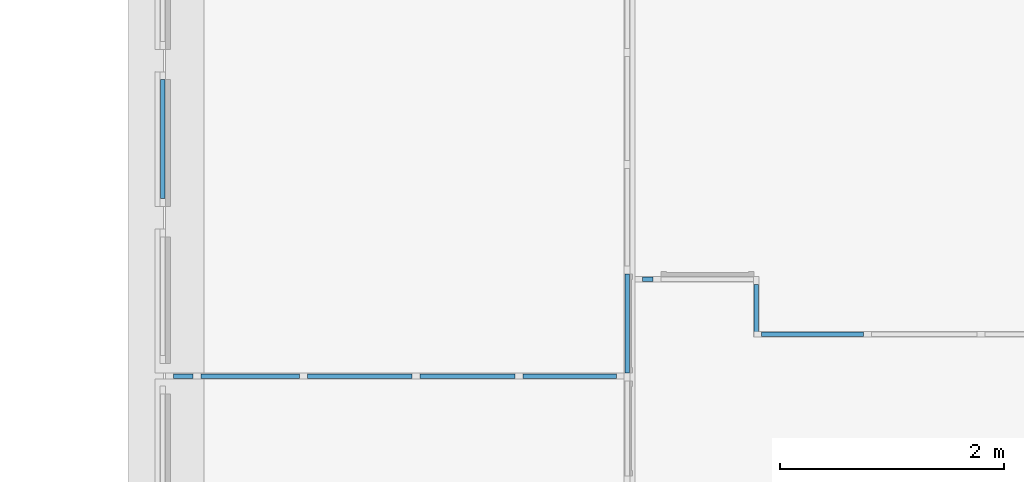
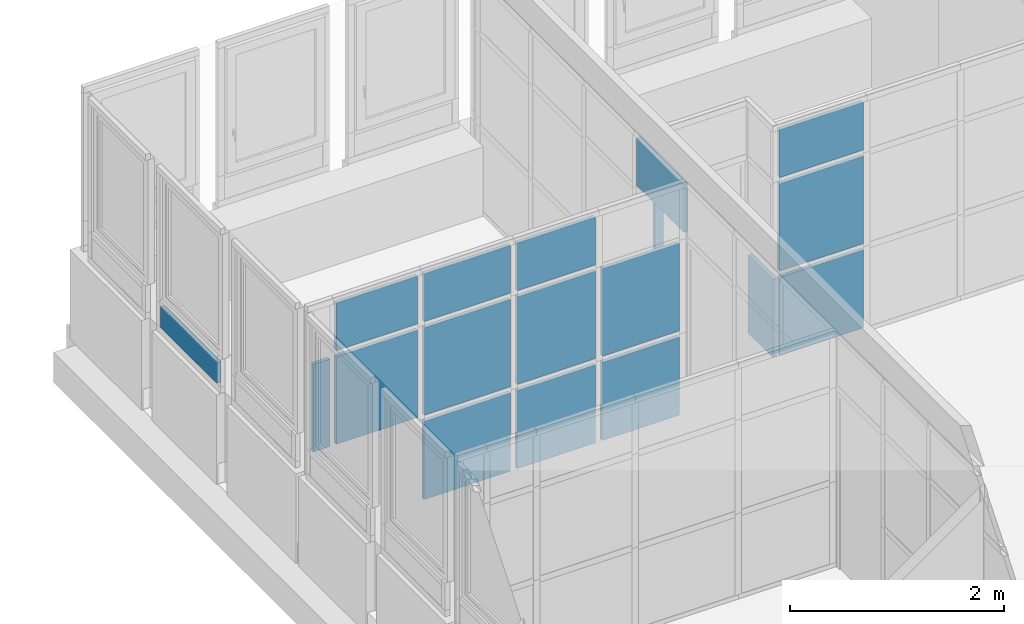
# One storey, part 31 of 97: 18 plates, 6 elements without a shape of their own.
"""IFC4 building model written with IfcOpenShell, lengths in metres."""

from ifc_helpers import new_model, entity, si_unit, converted_unit, derived_unit, direction, frame, origin, place, context, subcontext, project, spatial, indexed_curve, outline, extrude, shape, source, transform, mapped, material, layer, layer_set, type_object, type_shapes, element, aggregate, save


model = new_model("IFC4")

# Units and contexts
model_context = context("Model", 3, precision=1e-05, world=origin(), true_north=direction((6.12303176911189e-17, 1.0)))
body_context = subcontext(model_context, "Body", "Model", "MODEL_VIEW")
footprint_context = subcontext(model_context, "FootPrint", "Model", "MODEL_VIEW")
ifc_project = project(units=[si_unit("LENGTHUNIT", "METRE"), si_unit("AREAUNIT", "SQUARE_METRE"), si_unit("VOLUMEUNIT", "CUBIC_METRE"), converted_unit("PLANEANGLEUNIT", "DEGREE", entity("IfcRatioMeasure", 0.0174532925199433), si_unit("PLANEANGLEUNIT", "RADIAN"), dimensions=[0, 0, 0, 0, 0, 0, 0]), si_unit("MASSUNIT", "GRAM", prefix="KILO"), derived_unit("MASSDENSITYUNIT", [(si_unit("MASSUNIT", "GRAM", prefix="KILO"), 1), (si_unit("LENGTHUNIT", "METRE"), -3)]), derived_unit("MOMENTOFINERTIAUNIT", [(si_unit("LENGTHUNIT", "METRE"), 4)]), si_unit("TIMEUNIT", "SECOND"), si_unit("FREQUENCYUNIT", "HERTZ"), si_unit("THERMODYNAMICTEMPERATUREUNIT", "DEGREE_CELSIUS"), derived_unit("THERMALTRANSMITTANCEUNIT", [(si_unit("MASSUNIT", "GRAM", prefix="KILO"), 1), (si_unit("THERMODYNAMICTEMPERATUREUNIT", "KELVIN"), -1), (si_unit("TIMEUNIT", "SECOND"), -3)]), derived_unit("VOLUMETRICFLOWRATEUNIT", [(si_unit("LENGTHUNIT", "METRE"), 3), (si_unit("TIMEUNIT", "SECOND"), -1)]), si_unit("ELECTRICCURRENTUNIT", "AMPERE"), si_unit("ELECTRICVOLTAGEUNIT", "VOLT"), si_unit("POWERUNIT", "WATT"), si_unit("FORCEUNIT", "NEWTON", prefix="KILO"), si_unit("ILLUMINANCEUNIT", "LUX"), si_unit("LUMINOUSFLUXUNIT", "LUMEN"), si_unit("LUMINOUSINTENSITYUNIT", "CANDELA"), derived_unit("USERDEFINED", [(si_unit("MASSUNIT", "GRAM", prefix="KILO"), -1), (si_unit("LENGTHUNIT", "METRE"), -2), (si_unit("TIMEUNIT", "SECOND"), 3), (si_unit("LUMINOUSFLUXUNIT", "LUMEN"), 1)]), derived_unit("LINEARVELOCITYUNIT", [(si_unit("LENGTHUNIT", "METRE"), 1), (si_unit("TIMEUNIT", "SECOND"), -1)]), si_unit("PRESSUREUNIT", "PASCAL"), derived_unit("USERDEFINED", [(si_unit("LENGTHUNIT", "METRE"), -2), (si_unit("MASSUNIT", "GRAM", prefix="KILO"), 1), (si_unit("TIMEUNIT", "SECOND"), -2)]), derived_unit("LINEARFORCEUNIT", [(si_unit("MASSUNIT", "GRAM", prefix="KILO"), 1), (si_unit("LENGTHUNIT", "METRE"), 1), (si_unit("TIMEUNIT", "SECOND"), -2), (si_unit("LENGTHUNIT", "METRE"), -1)]), derived_unit("PLANARFORCEUNIT", [(si_unit("MASSUNIT", "GRAM", prefix="KILO"), 1), (si_unit("LENGTHUNIT", "METRE"), 1), (si_unit("TIMEUNIT", "SECOND"), -2), (si_unit("LENGTHUNIT", "METRE"), -2)])], contexts=[model_context])

# Site, building, storey
site_placement = place(None, origin())
site = spatial("IfcSite", under=ifc_project, at=site_placement, Name="Default", CompositionType="ELEMENT")
building_placement = place(site_placement, origin())
building = spatial("IfcBuilding", under=site, at=building_placement, Name="HOTEL CONSULAIRE BOULOGNE SUR MER", CompositionType="ELEMENT")
storey_placement = place(building_placement, frame((0.0, 0.0, 3.62152697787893)))
storey = spatial("IfcBuildingStorey", under=building, at=storey_placement, Name="Niveau 1", CompositionType="ELEMENT", Elevation=3.62152697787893)

# Curtain wall, plate
curtain_wall_type = type_object("IfcCurtainWallType", Name="Mur-rideau:Simple panneau", PredefinedType="NOTDEFINED")
curtain_wall_1_placement = place(storey_placement, frame((0.0, 0.0, -3.62152697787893)))
curtain_wall_1 = element("IfcCurtainWall", 1, at=curtain_wall_1_placement, inside=storey, type_object=curtain_wall_type, Name="Mur-rideau:Simple panneau", ObjectType="Mur-rideau:Simple panneau", PredefinedType="NOTDEFINED")
ifc_material = material(Name="Verre", Category="Verre")
ifc_layer_1 = layer(ifc_material, 0.04, Name="Verre", Category="Verre")
ifc_layer_set_1 = layer_set([ifc_layer_1], Name="Mur-rideau:Simple panneau")
plate_type_1 = type_object("IfcPlateType", Name="Panneau système:Vitré", PredefinedType="CURTAIN_PANEL", material=ifc_layer_set_1)
shared_shape_1 = source(origin(), body_context, "Body", "SweptSolid", [
    extrude(outline(indexed_curve([(-0.02, -0.530000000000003), (0.02, -0.530000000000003), (0.02, 0.530000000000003), (-0.02, 0.530000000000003), (-0.02, -0.530000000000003)], self_intersect=False)), frame((0.530000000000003, 0.02, 0.0), z_axis=(0.0, 0.0, 1.0), x_axis=(0.0, 1.0, 0.0)), (0.0, 0.0, 1.0), 0.243),
])
shared_shape_2 = source(frame((-0.530000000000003, 0.00500000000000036, 0.0)), footprint_context, "FootPrint", "Curve2D", [
    entity("IfcIndexedPolyCurve", entity("IfcCartesianPointList2D", [[0.691544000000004, 0.00347600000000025], [0.691544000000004, 0.0434760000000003], [-0.368456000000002, 0.0434760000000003], [-0.368456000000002, 0.00347600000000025], [0.691544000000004, 0.00347600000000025]]), None, False),
])
type_shapes(plate_type_1, [shared_shape_1, shared_shape_2])
plate_1_placement = place(curtain_wall_1_placement, frame((-13.7920998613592, -12.6414499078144, 4.48313951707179), z_axis=(0.0, 0.0, 1.0), x_axis=(0.0, 1.0, 0.0)))
plate_1 = element("IfcPlate", 2, at=plate_1_placement, type_object=plate_type_1, material=ifc_layer_set_1, Name="Panneau système:Vitré", ObjectType="Panneau système:Vitré", PredefinedType="CURTAIN_PANEL", shapes=[
    shape(body_context, "Body", "MappedRepresentation", [mapped(shared_shape_1, transform((0.0, 0.0, 0.0), scale=1.0))]),
    shape(body_context, "Body", "MappedRepresentation", [mapped(shared_shape_2, transform((0.0, 0.0, 0.0), scale=1.0))]),
])
aggregate(curtain_wall_1, [plate_1])

curtain_wall_2_placement = place(storey_placement, frame((0.0, 0.0, -3.62152697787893)))
curtain_wall_2 = element("IfcCurtainWall", 3, at=curtain_wall_2_placement, inside=storey, type_object=curtain_wall_type, Name="Mur-rideau:Simple panneau", ObjectType="Mur-rideau:Simple panneau", PredefinedType="NOTDEFINED")
plate_type_2 = type_object("IfcPlateType", Name="Panneau système:Vitré", PredefinedType="CURTAIN_PANEL", material=ifc_layer_set_1)
shared_shape_3 = source(origin(), body_context, "Body", "SweptSolid", [
    extrude(outline(indexed_curve([(-0.02, -0.423499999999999), (0.02, -0.423499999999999), (0.02, 0.423499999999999), (-0.02, 0.423499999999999), (-0.02, -0.423499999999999)], self_intersect=False)), frame((0.423499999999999, 0.02, 0.0), z_axis=(0.0, 0.0, 1.0), x_axis=(0.0, 1.0, 0.0)), (0.0, 0.0, 1.0), 0.546),
])
shared_shape_4 = source(frame((-0.423499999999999, 0.00499999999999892, 0.0)), footprint_context, "FootPrint", "Curve2D", [
    entity("IfcIndexedPolyCurve", entity("IfcCartesianPointList2D", [[0.552582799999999, 0.00347599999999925], [0.552582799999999, 0.0434759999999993], [-0.294417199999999, 0.0434759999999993], [-0.294417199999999, 0.00347599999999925], [0.552582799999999, 0.00347599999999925]]), None, False),
])
type_shapes(plate_type_2, [shared_shape_3, shared_shape_4])
plate_2_placement = place(curtain_wall_2_placement, frame((-11.5200998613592, -14.2424499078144, 5.70248743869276)))
plate_2 = element("IfcPlate", 4, at=plate_2_placement, type_object=plate_type_2, material=ifc_layer_set_1, Name="Panneau système:Vitré", ObjectType="Panneau système:Vitré", PredefinedType="CURTAIN_PANEL", shapes=[
    shape(body_context, "Body", "MappedRepresentation", [mapped(shared_shape_3, transform((0.0, 0.0, 0.0), scale=1.0))]),
    shape(body_context, "Body", "MappedRepresentation", [mapped(shared_shape_4, transform((0.0, 0.0, 0.0), scale=1.0))]),
])

curtain_wall_3_placement = place(storey_placement, frame((0.0, 0.0, -3.62152697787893)))
curtain_wall_3 = element("IfcCurtainWall", 5, at=curtain_wall_3_placement, inside=storey, type_object=curtain_wall_type, Name="Mur-rideau:Simple panneau", ObjectType="Mur-rideau:Simple panneau", PredefinedType="NOTDEFINED")
plate_type_3 = type_object("IfcPlateType", Name="Panneau système:Vitré", PredefinedType="CURTAIN_PANEL", material=ifc_layer_set_1)
shared_shape_5 = source(origin(), body_context, "Body", "SweptSolid", [
    extrude(outline(indexed_curve([(-0.02, -0.441999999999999), (0.02, -0.441999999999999), (0.02, 0.441999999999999), (-0.02, 0.441999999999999), (-0.02, -0.441999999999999)], self_intersect=False)), frame((0.441999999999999, 0.02, 0.0), z_axis=(0.0, 0.0, 1.0), x_axis=(0.0, 1.0, 0.0)), (0.0, 0.0, 1.0), 0.546),
])
shared_shape_6 = source(frame((-0.441999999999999, 0.00500000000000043, 0.0)), footprint_context, "FootPrint", "Curve2D", [
    entity("IfcIndexedPolyCurve", entity("IfcCartesianPointList2D", [[0.576721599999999, 0.0034760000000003], [0.576721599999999, 0.0434760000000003], [-0.307278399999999, 0.0434760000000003], [-0.307278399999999, 0.0034760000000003], [0.576721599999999, 0.0034760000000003]]), None, False),
])
type_shapes(plate_type_3, [shared_shape_5, shared_shape_6])
plate_3_placement = place(curtain_wall_3_placement, frame((-9.65462464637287, -14.1962596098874, 5.70248743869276), z_axis=(0.0, 0.0, 1.0), x_axis=(0.0, 1.0, 0.0)))
plate_3 = element("IfcPlate", 6, at=plate_3_placement, type_object=plate_type_3, material=ifc_layer_set_1, Name="Panneau système:Vitré", ObjectType="Panneau système:Vitré", PredefinedType="CURTAIN_PANEL", shapes=[
    shape(body_context, "Body", "MappedRepresentation", [mapped(shared_shape_5, transform((0.0, 0.0, 0.0), scale=1.0))]),
    shape(body_context, "Body", "MappedRepresentation", [mapped(shared_shape_6, transform((0.0, 0.0, 0.0), scale=1.0))]),
])
aggregate(curtain_wall_3, [plate_3])

# Plate
ifc_layer_2 = layer(ifc_material, 0.04, Name="Verre", Category="Verre")
ifc_layer_set_2 = layer_set([ifc_layer_2], Name="Mur-rideau:Simple panneau")
plate_type_4 = type_object("IfcPlateType", Name="Panneau système:Plein", PredefinedType="CURTAIN_PANEL", material=ifc_layer_set_2)
shared_shape_7 = source(origin(), body_context, "Body", "SweptSolid", [
    extrude(outline(indexed_curve([(-0.02, -0.466499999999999), (0.02, -0.466499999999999), (0.02, 0.466499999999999), (-0.02, 0.466499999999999), (-0.02, -0.466499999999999)], self_intersect=False)), frame((0.466499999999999, 0.02, 0.0), z_axis=(0.0, 0.0, 1.0), x_axis=(0.0, 1.0, 0.0)), (0.0, 0.0, 1.0), 0.892),
])
shared_shape_8 = source(frame((-0.466499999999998, 0.00500000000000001, 0.0)), footprint_context, "FootPrint", "Curve2D", [
    entity("IfcIndexedPolyCurve", entity("IfcCartesianPointList2D", [[0.608689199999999, 0.003476], [0.608689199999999, 0.043476], [-0.324310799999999, 0.043476], [-0.324310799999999, 0.003476], [0.608689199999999, 0.003476]]), None, False),
])
type_shapes(plate_type_4, [shared_shape_7, shared_shape_8])
plate_4_placement = place(curtain_wall_2_placement, frame((-12.5230998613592, -14.2424499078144, 3.67152697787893)))
plate_4 = element("IfcPlate", 7, at=plate_4_placement, type_object=plate_type_4, material=ifc_layer_set_2, Name="Panneau système:Plein", ObjectType="Panneau système:Plein", PredefinedType="CURTAIN_PANEL", shapes=[
    shape(body_context, "Body", "MappedRepresentation", [mapped(shared_shape_7, transform((0.0, 0.0, 0.0), scale=1.0))]),
    shape(body_context, "Body", "MappedRepresentation", [mapped(shared_shape_8, transform((0.0, 0.0, 0.0), scale=1.0))]),
])

plate_type_5 = type_object("IfcPlateType", Name="Panneau système:Plein", PredefinedType="CURTAIN_PANEL", material=ifc_layer_set_2)
shared_shape_9 = source(origin(), body_context, "Body", "SweptSolid", [
    extrude(outline(indexed_curve([(-0.02, -0.423499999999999), (0.02, -0.423499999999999), (0.02, 0.423499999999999), (-0.02, 0.423499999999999), (-0.02, -0.423499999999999)], self_intersect=False)), frame((0.423499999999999, 0.02, 0.0), z_axis=(0.0, 0.0, 1.0), x_axis=(0.0, 1.0, 0.0)), (0.0, 0.0, 1.0), 0.892),
])
shared_shape_10 = source(frame((-0.423499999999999, 0.00499999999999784, 0.0)), footprint_context, "FootPrint", "Curve2D", [
    entity("IfcIndexedPolyCurve", entity("IfcCartesianPointList2D", [[0.552582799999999, 0.0034759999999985], [0.552582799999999, 0.0434759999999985], [-0.294417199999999, 0.0434759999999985], [-0.294417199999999, 0.0034759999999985], [0.552582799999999, 0.0034759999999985]]), None, False),
])
type_shapes(plate_type_5, [shared_shape_9, shared_shape_10])
plate_5_placement = place(curtain_wall_2_placement, frame((-11.5200998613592, -14.2424499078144, 3.67152697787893)))
plate_5 = element("IfcPlate", 8, at=plate_5_placement, type_object=plate_type_5, material=ifc_layer_set_2, Name="Panneau système:Plein", ObjectType="Panneau système:Plein", PredefinedType="CURTAIN_PANEL", shapes=[
    shape(body_context, "Body", "MappedRepresentation", [mapped(shared_shape_9, transform((0.0, 0.0, 0.0), scale=1.0))]),
    shape(body_context, "Body", "MappedRepresentation", [mapped(shared_shape_10, transform((0.0, 0.0, 0.0), scale=1.0))]),
])

plate_type_6 = type_object("IfcPlateType", Name="Panneau système:Plein", PredefinedType="CURTAIN_PANEL", material=ifc_layer_set_2)
shared_shape_11 = source(origin(), body_context, "Body", "SweptSolid", [
    extrude(outline(indexed_curve([(-0.02, -0.416737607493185), (0.02, -0.416737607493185), (0.02, 0.416737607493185), (-0.02, 0.416737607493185), (-0.02, -0.416737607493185)], self_intersect=False)), frame((0.416737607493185, 0.02, 0.0), z_axis=(0.0, 0.0, 1.0), x_axis=(0.0, 1.0, 0.0)), (0.0, 0.0, 1.0), 0.892),
])
shared_shape_12 = source(frame((-0.416737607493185, 0.00500000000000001, 0.0)), footprint_context, "FootPrint", "Curve2D", [
    entity("IfcIndexedPolyCurve", entity("IfcCartesianPointList2D", [[0.543759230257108, 0.003476], [0.543759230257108, 0.043476], [-0.289715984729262, 0.043476], [-0.289715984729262, 0.003476], [0.543759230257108, 0.003476]]), None, False),
])
type_shapes(plate_type_6, [shared_shape_11, shared_shape_12])
plate_6_placement = place(curtain_wall_2_placement, frame((-10.6030998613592, -14.2424499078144, 3.67152697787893)))
plate_6 = element("IfcPlate", 9, at=plate_6_placement, type_object=plate_type_6, material=ifc_layer_set_2, Name="Panneau système:Plein", ObjectType="Panneau système:Plein", PredefinedType="CURTAIN_PANEL", shapes=[
    shape(body_context, "Body", "MappedRepresentation", [mapped(shared_shape_11, transform((0.0, 0.0, 0.0), scale=1.0))]),
    shape(body_context, "Body", "MappedRepresentation", [mapped(shared_shape_12, transform((0.0, 0.0, 0.0), scale=1.0))]),
])

plate_type_7 = type_object("IfcPlateType", Name="Panneau système:Vitré", PredefinedType="CURTAIN_PANEL", material=ifc_layer_set_1)
shared_shape_13 = source(origin(), body_context, "Body", "SweptSolid", [
    extrude(outline(indexed_curve([(-0.02, -0.0885000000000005), (0.02, -0.0885000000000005), (0.02, 0.0885000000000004), (-0.02, 0.0885000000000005), (-0.02, -0.0885000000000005)], self_intersect=False)), frame((0.0885000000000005, 0.02, 0.0), z_axis=(0.0, 0.0, 1.0), x_axis=(0.0, 1.0, 0.0)), (0.0, 0.0, 1.0), 0.998960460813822),
])
shared_shape_14 = source(frame((-0.0885000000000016, 0.00500000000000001, 0.0)), footprint_context, "FootPrint", "Curve2D", [
    entity("IfcIndexedPolyCurve", entity("IfcCartesianPointList2D", [[0.1154748, 0.003476], [0.1154748, 0.043476], [-0.0615252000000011, 0.043476], [-0.0615252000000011, 0.003476], [0.1154748, 0.003476]]), None, False),
])
type_shapes(plate_type_7, [shared_shape_13, shared_shape_14])
plate_7_placement = place(curtain_wall_2_placement, frame((-13.7181025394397, -14.2424499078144, 4.63352697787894)))
plate_7 = element("IfcPlate", 10, at=plate_7_placement, type_object=plate_type_7, material=ifc_layer_set_1, Name="Panneau système:Vitré", ObjectType="Panneau système:Vitré", PredefinedType="CURTAIN_PANEL", shapes=[
    shape(body_context, "Body", "MappedRepresentation", [mapped(shared_shape_13, transform((0.0, 0.0, 0.0), scale=1.0))]),
    shape(body_context, "Body", "MappedRepresentation", [mapped(shared_shape_14, transform((0.0, 0.0, 0.0), scale=1.0))]),
])

plate_type_8 = type_object("IfcPlateType", Name="Panneau système:Vitré", PredefinedType="CURTAIN_PANEL", material=ifc_layer_set_1)
shared_shape_15 = source(origin(), body_context, "Body", "SweptSolid", [
    extrude(outline(indexed_curve([(-0.02, -0.439001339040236), (0.02, -0.439001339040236), (0.02, 0.439001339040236), (-0.02, 0.439001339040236), (-0.02, -0.439001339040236)], self_intersect=False)), frame((0.439001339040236, 0.02, 0.0), z_axis=(0.0, 0.0, 1.0), x_axis=(0.0, 1.0, 0.0)), (0.0, 0.0, 1.0), 0.998960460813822),
])
shared_shape_16 = source(frame((-0.439001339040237, 0.00500000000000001, 0.0)), footprint_context, "FootPrint", "Curve2D", [
    entity("IfcIndexedPolyCurve", entity("IfcCartesianPointList2D", [[0.572808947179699, 0.003476], [0.572808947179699, 0.043476], [-0.305193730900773, 0.043476], [-0.305193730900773, 0.003476], [0.572808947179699, 0.003476]]), None, False),
])
type_shapes(plate_type_8, [shared_shape_15, shared_shape_16])
plate_8_placement = place(curtain_wall_2_placement, frame((-13.4711025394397, -14.2424499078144, 4.63352697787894)))
plate_8 = element("IfcPlate", 11, at=plate_8_placement, type_object=plate_type_8, material=ifc_layer_set_1, Name="Panneau système:Vitré", ObjectType="Panneau système:Vitré", PredefinedType="CURTAIN_PANEL", shapes=[
    shape(body_context, "Body", "MappedRepresentation", [mapped(shared_shape_15, transform((0.0, 0.0, 0.0), scale=1.0))]),
    shape(body_context, "Body", "MappedRepresentation", [mapped(shared_shape_16, transform((0.0, 0.0, 0.0), scale=1.0))]),
])

plate_type_9 = type_object("IfcPlateType", Name="Panneau système:Vitré", PredefinedType="CURTAIN_PANEL", material=ifc_layer_set_1)
shared_shape_17 = source(origin(), body_context, "Body", "SweptSolid", [
    extrude(outline(indexed_curve([(-0.02, -0.466499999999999), (0.02, -0.466499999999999), (0.02, 0.466499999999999), (-0.02, 0.466499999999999), (-0.02, -0.466499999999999)], self_intersect=False)), frame((0.466499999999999, 0.02, 0.0), z_axis=(0.0, 0.0, 1.0), x_axis=(0.0, 1.0, 0.0)), (0.0, 0.0, 1.0), 0.998960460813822),
])
shared_shape_18 = source(frame((-0.466499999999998, 0.00500000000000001, 0.0)), footprint_context, "FootPrint", "Curve2D", [
    entity("IfcIndexedPolyCurve", entity("IfcCartesianPointList2D", [[0.608689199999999, 0.003476], [0.608689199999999, 0.043476], [-0.324310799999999, 0.043476], [-0.324310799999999, 0.003476], [0.608689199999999, 0.003476]]), None, False),
])
type_shapes(plate_type_9, [shared_shape_17, shared_shape_18])
plate_9_placement = place(curtain_wall_2_placement, frame((-12.5230998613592, -14.2424499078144, 4.63352697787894)))
plate_9 = element("IfcPlate", 12, at=plate_9_placement, type_object=plate_type_9, material=ifc_layer_set_1, Name="Panneau système:Vitré", ObjectType="Panneau système:Vitré", PredefinedType="CURTAIN_PANEL", shapes=[
    shape(body_context, "Body", "MappedRepresentation", [mapped(shared_shape_17, transform((0.0, 0.0, 0.0), scale=1.0))]),
    shape(body_context, "Body", "MappedRepresentation", [mapped(shared_shape_18, transform((0.0, 0.0, 0.0), scale=1.0))]),
])

plate_type_10 = type_object("IfcPlateType", Name="Panneau système:Vitré", PredefinedType="CURTAIN_PANEL", material=ifc_layer_set_1)
shared_shape_19 = source(origin(), body_context, "Body", "SweptSolid", [
    extrude(outline(indexed_curve([(-0.02, -0.423499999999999), (0.02, -0.423499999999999), (0.02, 0.423499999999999), (-0.02, 0.423499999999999), (-0.02, -0.423499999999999)], self_intersect=False)), frame((0.423499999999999, 0.02, 0.0), z_axis=(0.0, 0.0, 1.0), x_axis=(0.0, 1.0, 0.0)), (0.0, 0.0, 1.0), 0.998960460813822),
])
shared_shape_20 = source(frame((-0.423499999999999, 0.00499999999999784, 0.0)), footprint_context, "FootPrint", "Curve2D", [
    entity("IfcIndexedPolyCurve", entity("IfcCartesianPointList2D", [[0.552582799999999, 0.0034759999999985], [0.552582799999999, 0.0434759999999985], [-0.294417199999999, 0.0434759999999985], [-0.294417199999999, 0.0034759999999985], [0.552582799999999, 0.0034759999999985]]), None, False),
])
type_shapes(plate_type_10, [shared_shape_19, shared_shape_20])
plate_10_placement = place(curtain_wall_2_placement, frame((-11.5200998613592, -14.2424499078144, 4.63352697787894)))
plate_10 = element("IfcPlate", 13, at=plate_10_placement, type_object=plate_type_10, material=ifc_layer_set_1, Name="Panneau système:Vitré", ObjectType="Panneau système:Vitré", PredefinedType="CURTAIN_PANEL", shapes=[
    shape(body_context, "Body", "MappedRepresentation", [mapped(shared_shape_19, transform((0.0, 0.0, 0.0), scale=1.0))]),
    shape(body_context, "Body", "MappedRepresentation", [mapped(shared_shape_20, transform((0.0, 0.0, 0.0), scale=1.0))]),
])

plate_type_11 = type_object("IfcPlateType", Name="Panneau système:Vitré", PredefinedType="CURTAIN_PANEL", material=ifc_layer_set_1)
shared_shape_21 = source(origin(), body_context, "Body", "SweptSolid", [
    extrude(outline(indexed_curve([(-0.02, -0.416737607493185), (0.02, -0.416737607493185), (0.02, 0.416737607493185), (-0.02, 0.416737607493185), (-0.02, -0.416737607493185)], self_intersect=False)), frame((0.416737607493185, 0.02, 0.0), z_axis=(0.0, 0.0, 1.0), x_axis=(0.0, 1.0, 0.0)), (0.0, 0.0, 1.0), 0.998960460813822),
])
shared_shape_22 = source(frame((-0.416737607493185, 0.00500000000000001, 0.0)), footprint_context, "FootPrint", "Curve2D", [
    entity("IfcIndexedPolyCurve", entity("IfcCartesianPointList2D", [[0.543759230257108, 0.003476], [0.543759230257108, 0.043476], [-0.289715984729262, 0.043476], [-0.289715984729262, 0.003476], [0.543759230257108, 0.003476]]), None, False),
])
type_shapes(plate_type_11, [shared_shape_21, shared_shape_22])
plate_11_placement = place(curtain_wall_2_placement, frame((-10.6030998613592, -14.2424499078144, 4.63352697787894)))
plate_11 = element("IfcPlate", 14, at=plate_11_placement, type_object=plate_type_11, material=ifc_layer_set_1, Name="Panneau système:Vitré", ObjectType="Panneau système:Vitré", PredefinedType="CURTAIN_PANEL", shapes=[
    shape(body_context, "Body", "MappedRepresentation", [mapped(shared_shape_21, transform((0.0, 0.0, 0.0), scale=1.0))]),
    shape(body_context, "Body", "MappedRepresentation", [mapped(shared_shape_22, transform((0.0, 0.0, 0.0), scale=1.0))]),
])

plate_type_12 = type_object("IfcPlateType", Name="Panneau système:Vitré", PredefinedType="CURTAIN_PANEL", material=ifc_layer_set_1)
shared_shape_23 = source(origin(), body_context, "Body", "SweptSolid", [
    extrude(outline(indexed_curve([(-0.02, -0.439001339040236), (0.02, -0.439001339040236), (0.02, 0.439001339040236), (-0.02, 0.439001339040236), (-0.02, -0.439001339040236)], self_intersect=False)), frame((0.439001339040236, 0.02, 0.0), z_axis=(0.0, 0.0, 1.0), x_axis=(0.0, 1.0, 0.0)), (0.0, 0.0, 1.0), 0.546),
])
shared_shape_24 = source(frame((-0.439001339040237, 0.00500000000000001, 0.0)), footprint_context, "FootPrint", "Curve2D", [
    entity("IfcIndexedPolyCurve", entity("IfcCartesianPointList2D", [[0.572808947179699, 0.003476], [0.572808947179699, 0.043476], [-0.305193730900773, 0.043476], [-0.305193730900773, 0.003476], [0.572808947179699, 0.003476]]), None, False),
])
type_shapes(plate_type_12, [shared_shape_23, shared_shape_24])
plate_12_placement = place(curtain_wall_2_placement, frame((-13.4711025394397, -14.2424499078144, 5.70248743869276)))
plate_12 = element("IfcPlate", 15, at=plate_12_placement, type_object=plate_type_12, material=ifc_layer_set_1, Name="Panneau système:Vitré", ObjectType="Panneau système:Vitré", PredefinedType="CURTAIN_PANEL", shapes=[
    shape(body_context, "Body", "MappedRepresentation", [mapped(shared_shape_23, transform((0.0, 0.0, 0.0), scale=1.0))]),
    shape(body_context, "Body", "MappedRepresentation", [mapped(shared_shape_24, transform((0.0, 0.0, 0.0), scale=1.0))]),
])

plate_type_13 = type_object("IfcPlateType", Name="Panneau système:Vitré", PredefinedType="CURTAIN_PANEL", material=ifc_layer_set_1)
shared_shape_25 = source(origin(), body_context, "Body", "SweptSolid", [
    extrude(outline(indexed_curve([(-0.02, -0.466499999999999), (0.02, -0.466499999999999), (0.02, 0.466499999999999), (-0.02, 0.466499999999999), (-0.02, -0.466499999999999)], self_intersect=False)), frame((0.466499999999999, 0.02, 0.0), z_axis=(0.0, 0.0, 1.0), x_axis=(0.0, 1.0, 0.0)), (0.0, 0.0, 1.0), 0.546),
])
shared_shape_26 = source(frame((-0.466499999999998, 0.00500000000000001, 0.0)), footprint_context, "FootPrint", "Curve2D", [
    entity("IfcIndexedPolyCurve", entity("IfcCartesianPointList2D", [[0.608689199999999, 0.003476], [0.608689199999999, 0.043476], [-0.324310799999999, 0.043476], [-0.324310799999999, 0.003476], [0.608689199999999, 0.003476]]), None, False),
])
type_shapes(plate_type_13, [shared_shape_25, shared_shape_26])
plate_13_placement = place(curtain_wall_2_placement, frame((-12.5230998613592, -14.2424499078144, 5.70248743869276)))
plate_13 = element("IfcPlate", 16, at=plate_13_placement, type_object=plate_type_13, material=ifc_layer_set_1, Name="Panneau système:Vitré", ObjectType="Panneau système:Vitré", PredefinedType="CURTAIN_PANEL", shapes=[
    shape(body_context, "Body", "MappedRepresentation", [mapped(shared_shape_25, transform((0.0, 0.0, 0.0), scale=1.0))]),
    shape(body_context, "Body", "MappedRepresentation", [mapped(shared_shape_26, transform((0.0, 0.0, 0.0), scale=1.0))]),
])

aggregate(curtain_wall_2, [plate_4, plate_5, plate_6, plate_7, plate_8, plate_9, plate_10, plate_11, plate_12, plate_13, plate_2])

# Curtain wall, plate
curtain_wall_4_placement = place(storey_placement, frame((0.0, 0.0, -3.62152697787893)))
curtain_wall_4 = element("IfcCurtainWall", 17, at=curtain_wall_4_placement, inside=storey, type_object=curtain_wall_type, Name="Mur-rideau:Simple panneau", ObjectType="Mur-rideau:Simple panneau", PredefinedType="NOTDEFINED")
plate_type_14 = type_object("IfcPlateType", Name="Panneau système:Vitré", PredefinedType="CURTAIN_PANEL", material=ifc_layer_set_1)
shared_shape_27 = source(origin(), body_context, "Body", "SweptSolid", [
    extrude(outline(indexed_curve([(-0.02, -0.0454999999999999), (0.02, -0.0454999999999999), (0.02, 0.0454999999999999), (-0.02, 0.0454999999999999), (-0.02, -0.0454999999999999)], self_intersect=False)), frame((0.0454999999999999, 0.02, 0.0), z_axis=(0.0, 0.0, 1.0), x_axis=(0.0, 1.0, 0.0)), (0.0, 0.0, 1.0), 0.998960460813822),
])
shared_shape_28 = source(frame((-0.0454999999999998, 0.00499999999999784, 0.0)), footprint_context, "FootPrint", "Curve2D", [
    entity("IfcIndexedPolyCurve", entity("IfcCartesianPointList2D", [[0.0593684, 0.0034759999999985], [0.0593684, 0.0434759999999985], [-0.0316315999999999, 0.0434759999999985], [-0.0316315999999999, 0.0034759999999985], [0.0593684, 0.0034759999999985]]), None, False),
])
type_shapes(plate_type_14, [shared_shape_27, shared_shape_28])
plate_14_placement = place(curtain_wall_4_placement, frame((-9.44362464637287, -13.3395509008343, 4.63352697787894), z_axis=(0.0, 0.0, 1.0), x_axis=(-1.0, 0.0, 0.0)))
plate_14 = element("IfcPlate", 18, at=plate_14_placement, type_object=plate_type_14, material=ifc_layer_set_1, Name="Panneau système:Vitré", ObjectType="Panneau système:Vitré", PredefinedType="CURTAIN_PANEL", shapes=[
    shape(body_context, "Body", "MappedRepresentation", [mapped(shared_shape_27, transform((0.0, 0.0, 0.0), scale=1.0))]),
    shape(body_context, "Body", "MappedRepresentation", [mapped(shared_shape_28, transform((0.0, 0.0, 0.0), scale=1.0))]),
])
aggregate(curtain_wall_4, [plate_14])

# Curtain wall, plates
curtain_wall_5_placement = place(storey_placement, frame((0.0, 0.0, -3.62152697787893)))
curtain_wall_5 = element("IfcCurtainWall", 19, at=curtain_wall_5_placement, inside=storey, type_object=curtain_wall_type, Name="Mur-rideau:Simple panneau", ObjectType="Mur-rideau:Simple panneau", PredefinedType="NOTDEFINED")
plate_type_15 = type_object("IfcPlateType", Name="Panneau système:Plein", PredefinedType="CURTAIN_PANEL", material=ifc_layer_set_2)
shared_shape_29 = source(origin(), body_context, "Body", "SweptSolid", [
    extrude(outline(indexed_curve([(-0.0199999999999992, -0.453199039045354), (0.0200000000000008, -0.453199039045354), (0.0199999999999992, 0.453199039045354), (-0.0200000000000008, 0.453199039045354), (-0.0199999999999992, -0.453199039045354)], self_intersect=False)), frame((0.453199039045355, 0.02, 0.0), z_axis=(0.0, 0.0, 1.0), x_axis=(0.0, 1.0, 0.0)), (0.0, 0.0, 1.0), 0.892),
])
shared_shape_30 = source(frame((-0.453199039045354, 0.00500000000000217, 0.0)), footprint_context, "FootPrint", "Curve2D", [
    entity("IfcIndexedPolyCurve", entity("IfcCartesianPointList2D", [[0.591334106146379, 0.00347600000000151], [0.591334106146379, 0.0434760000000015], [-0.315063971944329, 0.0434760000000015], [-0.315063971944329, 0.00347600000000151], [0.591334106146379, 0.00347600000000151]]), None, False),
])
type_shapes(plate_type_15, [shared_shape_29, shared_shape_30])
plate_15_placement = place(curtain_wall_5_placement, frame((-7.56756933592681, -13.8309141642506, 3.67152697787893), z_axis=(0.0, 0.0, 1.0), x_axis=(-1.0, 0.0, 0.0)))
plate_15 = element("IfcPlate", 20, at=plate_15_placement, type_object=plate_type_15, material=ifc_layer_set_2, Name="Panneau système:Plein", ObjectType="Panneau système:Plein", PredefinedType="CURTAIN_PANEL", shapes=[
    shape(body_context, "Body", "MappedRepresentation", [mapped(shared_shape_29, transform((0.0, 0.0, 0.0), scale=1.0))]),
    shape(body_context, "Body", "MappedRepresentation", [mapped(shared_shape_30, transform((0.0, 0.0, 0.0), scale=1.0))]),
])
plate_type_16 = type_object("IfcPlateType", Name="Panneau système:Vitré", PredefinedType="CURTAIN_PANEL", material=ifc_layer_set_1)
shared_shape_31 = source(origin(), body_context, "Body", "SweptSolid", [
    extrude(outline(indexed_curve([(-0.02, -0.453199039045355), (0.02, -0.453199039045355), (0.02, 0.453199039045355), (-0.02, 0.453199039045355), (-0.02, -0.453199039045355)], self_intersect=False)), frame((0.453199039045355, 0.02, 0.0), z_axis=(0.0, 0.0, 1.0), x_axis=(0.0, 1.0, 0.0)), (0.0, 0.0, 1.0), 0.998960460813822),
])
shared_shape_32 = source(frame((-0.453199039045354, 0.00500000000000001, 0.0)), footprint_context, "FootPrint", "Curve2D", [
    entity("IfcIndexedPolyCurve", entity("IfcCartesianPointList2D", [[0.591334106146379, 0.003476], [0.591334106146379, 0.043476], [-0.31506397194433, 0.043476], [-0.31506397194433, 0.003476], [0.591334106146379, 0.003476]]), None, False),
])
type_shapes(plate_type_16, [shared_shape_31, shared_shape_32])
plate_16_placement = place(curtain_wall_5_placement, frame((-7.56756933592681, -13.8309141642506, 4.63352697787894), z_axis=(0.0, 0.0, 1.0), x_axis=(-1.0, 0.0, 0.0)))
plate_16 = element("IfcPlate", 21, at=plate_16_placement, type_object=plate_type_16, material=ifc_layer_set_1, Name="Panneau système:Vitré", ObjectType="Panneau système:Vitré", PredefinedType="CURTAIN_PANEL", shapes=[
    shape(body_context, "Body", "MappedRepresentation", [mapped(shared_shape_31, transform((0.0, 0.0, 0.0), scale=1.0))]),
    shape(body_context, "Body", "MappedRepresentation", [mapped(shared_shape_32, transform((0.0, 0.0, 0.0), scale=1.0))]),
])
plate_type_17 = type_object("IfcPlateType", Name="Panneau système:Vitré", PredefinedType="CURTAIN_PANEL", material=ifc_layer_set_1)
shared_shape_33 = source(origin(), body_context, "Body", "SweptSolid", [
    extrude(outline(indexed_curve([(-0.02, -0.453199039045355), (0.02, -0.453199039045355), (0.02, 0.453199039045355), (-0.02, 0.453199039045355), (-0.02, -0.453199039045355)], self_intersect=False)), frame((0.453199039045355, 0.02, 0.0), z_axis=(0.0, 0.0, 1.0), x_axis=(0.0, 1.0, 0.0)), (0.0, 0.0, 1.0), 0.546),
])
shared_shape_34 = source(frame((-0.453199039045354, 0.00500000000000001, 0.0)), footprint_context, "FootPrint", "Curve2D", [
    entity("IfcIndexedPolyCurve", entity("IfcCartesianPointList2D", [[0.591334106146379, 0.003476], [0.591334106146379, 0.043476], [-0.31506397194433, 0.043476], [-0.31506397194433, 0.003476], [0.591334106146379, 0.003476]]), None, False),
])
type_shapes(plate_type_17, [shared_shape_33, shared_shape_34])
plate_17_placement = place(curtain_wall_5_placement, frame((-7.56756933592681, -13.8309141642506, 5.70248743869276), z_axis=(0.0, 0.0, 1.0), x_axis=(-1.0, 0.0, 0.0)))
plate_17 = element("IfcPlate", 22, at=plate_17_placement, type_object=plate_type_17, material=ifc_layer_set_1, Name="Panneau système:Vitré", ObjectType="Panneau système:Vitré", PredefinedType="CURTAIN_PANEL", shapes=[
    shape(body_context, "Body", "MappedRepresentation", [mapped(shared_shape_33, transform((0.0, 0.0, 0.0), scale=1.0))]),
    shape(body_context, "Body", "MappedRepresentation", [mapped(shared_shape_34, transform((0.0, 0.0, 0.0), scale=1.0))]),
])
aggregate(curtain_wall_5, [plate_15, plate_16, plate_17])

# Curtain wall, plate
curtain_wall_6_placement = place(storey_placement, frame((0.0, 0.0, -3.62152697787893)))
curtain_wall_6 = element("IfcCurtainWall", 23, at=curtain_wall_6_placement, inside=storey, type_object=curtain_wall_type, Name="Mur-rideau:Simple panneau", ObjectType="Mur-rideau:Simple panneau", PredefinedType="NOTDEFINED")
plate_type_18 = type_object("IfcPlateType", Name="Panneau système:Plein", PredefinedType="CURTAIN_PANEL", material=ifc_layer_set_2)
shared_shape_35 = source(origin(), body_context, "Body", "SweptSolid", [
    extrude(outline(indexed_curve([(-0.02, -0.233181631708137), (0.02, -0.233181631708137), (0.02, 0.233181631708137), (-0.02, 0.233181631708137), (-0.02, -0.233181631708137)], self_intersect=False)), frame((0.233181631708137, 0.02, 0.0), z_axis=(0.0, 0.0, 1.0), x_axis=(0.0, 1.0, 0.0)), (0.0, 0.0, 1.0), 0.892),
])
shared_shape_36 = source(frame((-0.233181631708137, 0.00499999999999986, 0.0)), footprint_context, "FootPrint", "Curve2D", [
    entity("IfcIndexedPolyCurve", entity("IfcCartesianPointList2D", [[0.304255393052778, 0.0034759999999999], [0.304255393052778, 0.0434759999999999], [-0.162107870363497, 0.0434759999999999], [-0.162107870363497, 0.0034759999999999], [0.304255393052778, 0.0034759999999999]]), None, False),
])
type_shapes(plate_type_18, [shared_shape_35, shared_shape_36])
plate_18_placement = place(curtain_wall_6_placement, frame((-8.50396741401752, -13.8709141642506, 3.67152697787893), z_axis=(0.0, 0.0, 1.0), x_axis=(0.0, 1.0, 0.0)))
plate_18 = element("IfcPlate", 24, at=plate_18_placement, type_object=plate_type_18, material=ifc_layer_set_2, Name="Panneau système:Plein", ObjectType="Panneau système:Plein", PredefinedType="CURTAIN_PANEL", shapes=[
    shape(body_context, "Body", "MappedRepresentation", [mapped(shared_shape_35, transform((0.0, 0.0, 0.0), scale=1.0))]),
    shape(body_context, "Body", "MappedRepresentation", [mapped(shared_shape_36, transform((0.0, 0.0, 0.0), scale=1.0))]),
])
aggregate(curtain_wall_6, [plate_18])

save(model, "model.ifc")
